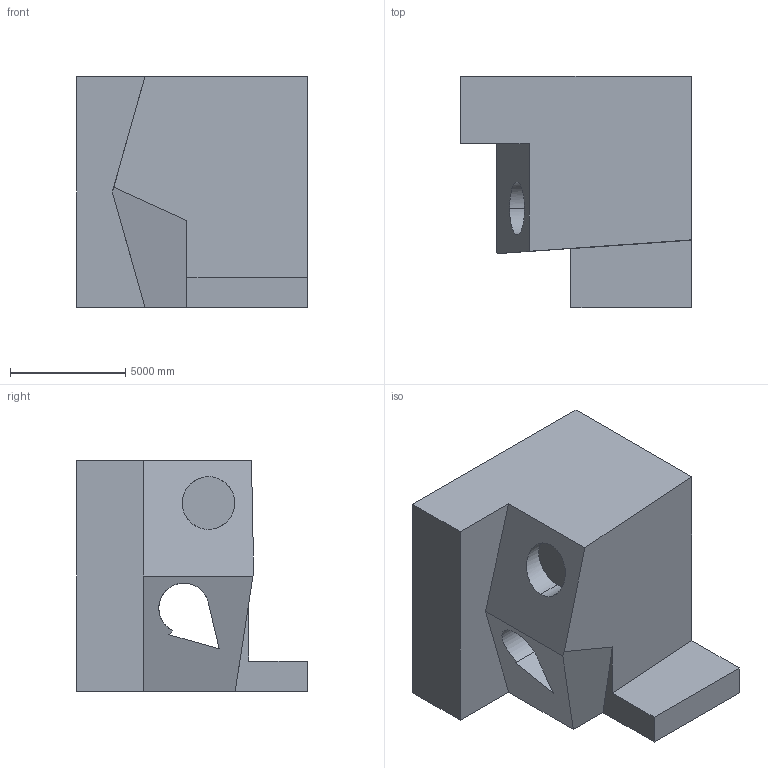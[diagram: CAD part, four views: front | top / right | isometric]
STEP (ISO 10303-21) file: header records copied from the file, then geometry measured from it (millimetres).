
FILE_DESCRIPTION (( 'STEP AP203' ), '1' );
FILE_NAME ('633.STEP', '2022-07-29T12:12:40', ( 'user' ), ( '' ), 'SwSTEP 2.0', 'SolidWorks 2021', '' );
FILE_SCHEMA (( 'CONFIG_CONTROL_DESIGN' ));
Length unit declared in the file: centimetre
Products named in the file (1): 633
Bounding box: 10000 x 10000 x 10000 mm (x, y, z)
Volume: 602696527277 mm3; surface area: 578248554.5 mm2
Topology: 1 solids, 1 shells, 30 faces, 81 edges, 54 vertices
Faces by surface type: plane 21, cylinder 9
Entity records: 1023 total; most frequent: CARTESIAN_POINT 181, ORIENTED_EDGE 162, DIRECTION 155, EDGE_CURVE 81, LINE 59, VECTOR 59, VERTEX_POINT 54, AXIS2_PLACEMENT_3D 48
